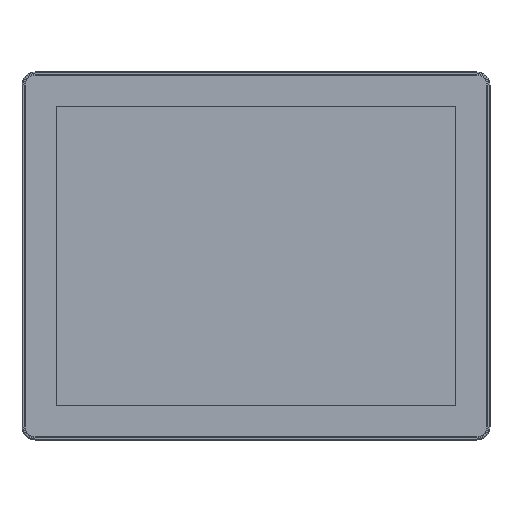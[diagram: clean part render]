
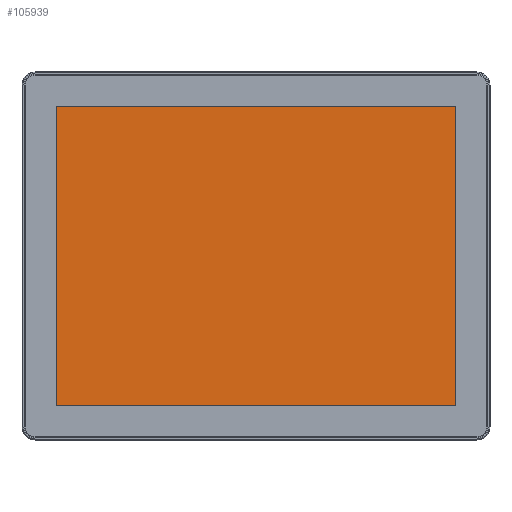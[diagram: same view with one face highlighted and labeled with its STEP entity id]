
A CAD part, top view. The second image highlights one B-rep face of the part: STEP entity #105939.
In plain terms, the highlighted planar face has unit normal (0, 0, 1) as drawn and (0, -1, 0) by its records, which use the part's own axes.
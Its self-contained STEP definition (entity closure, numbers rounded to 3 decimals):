
#2524 = LINE ( 'NONE', #150471, #63972 ) ;
#3918 = EDGE_LOOP ( 'NONE', ( #50476, #78282, #130924, #127276 ) ) ;
#6365 = VECTOR ( 'NONE', #106000, 1000. ) ;
#19536 = VERTEX_POINT ( 'NONE', #138576 ) ;
#20929 = LINE ( 'NONE', #145568, #169955 ) ;
#27654 = DIRECTION ( 'NONE',  ( 0., 0., -1. ) ) ;
#34457 = CARTESIAN_POINT ( 'NONE',  ( -168., -3.9, 130. ) ) ;
#35343 = DIRECTION ( 'NONE',  ( 0., -1., 0. ) ) ;
#45567 = VERTEX_POINT ( 'NONE', #150189 ) ;
#48723 = VERTEX_POINT ( 'NONE', #68002 ) ;
#50476 = ORIENTED_EDGE ( 'NONE', *, *, #51444, .T. ) ;
#51253 = CARTESIAN_POINT ( 'NONE',  ( 152., -3.9, -114. ) ) ;
#51444 = EDGE_CURVE ( 'NONE', #45567, #19536, #2524, .T. ) ;
#52110 = LINE ( 'NONE', #51253, #6365 ) ;
#63972 = VECTOR ( 'NONE', #27654, 1000. ) ;
#67676 = CARTESIAN_POINT ( 'NONE',  ( 152., -3.9, -114. ) ) ;
#67946 = AXIS2_PLACEMENT_3D ( 'NONE', #34457, #35343, #168937 ) ;
#68002 = CARTESIAN_POINT ( 'NONE',  ( 152., -3.9, -114. ) ) ;
#69279 = CARTESIAN_POINT ( 'NONE',  ( 152., -3.9, 114. ) ) ;
#78282 = ORIENTED_EDGE ( 'NONE', *, *, #82541, .T. ) ;
#82541 = EDGE_CURVE ( 'NONE', #19536, #48723, #52110, .T. ) ;
#102581 = FACE_OUTER_BOUND ( 'NONE', #3918, .T. ) ;
#105939 = ADVANCED_FACE ( 'NONE', ( #102581 ), #157261, .T. ) ;
#106000 = DIRECTION ( 'NONE',  ( 1., 0., 0. ) ) ;
#123884 = VERTEX_POINT ( 'NONE', #69279 ) ;
#127276 = ORIENTED_EDGE ( 'NONE', *, *, #152426, .T. ) ;
#130924 = ORIENTED_EDGE ( 'NONE', *, *, #133769, .T. ) ;
#133769 = EDGE_CURVE ( 'NONE', #48723, #123884, #151994, .T. ) ;
#134405 = VECTOR ( 'NONE', #166314, 1000. ) ;
#138576 = CARTESIAN_POINT ( 'NONE',  ( -152., -3.9, -114. ) ) ;
#145568 = CARTESIAN_POINT ( 'NONE',  ( 152., -3.9, 114. ) ) ;
#150189 = CARTESIAN_POINT ( 'NONE',  ( -152., -3.9, 114. ) ) ;
#150471 = CARTESIAN_POINT ( 'NONE',  ( -152., -3.9, -114. ) ) ;
#151994 = LINE ( 'NONE', #67676, #134405 ) ;
#152426 = EDGE_CURVE ( 'NONE', #123884, #45567, #20929, .T. ) ;
#157261 = PLANE ( 'NONE',  #67946 ) ;
#166314 = DIRECTION ( 'NONE',  ( 0., 0., 1. ) ) ;
#168937 = DIRECTION ( 'NONE',  ( 0., 0., -1. ) ) ;
#169955 = VECTOR ( 'NONE', #174221, 1000. ) ;
#174221 = DIRECTION ( 'NONE',  ( -1., 0., 0. ) ) ;
